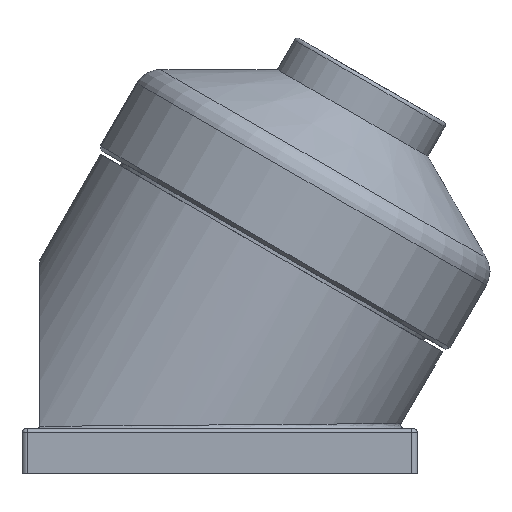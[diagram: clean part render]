
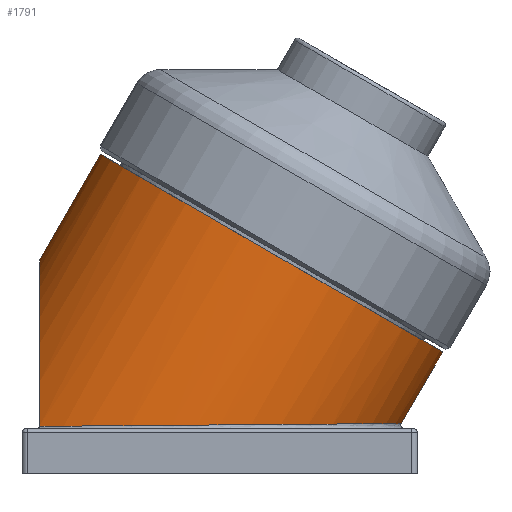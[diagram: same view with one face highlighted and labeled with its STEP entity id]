
A CAD part, left-side view. The second image highlights one B-rep face of the part: STEP entity #1791.
In plain terms, the highlighted cylindrical face has radius 110 mm (diameter 220 mm), a full revolution.
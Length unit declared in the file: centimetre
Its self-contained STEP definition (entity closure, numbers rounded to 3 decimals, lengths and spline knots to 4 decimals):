
#19=ELLIPSE('',#2002,22.,11.);
#23=ELLIPSE('',#2042,12.7598,11.);
#30=B_SPLINE_CURVE_WITH_KNOTS('',3,(#3112,#3113,#3114,#3115,#3116,#3117,
#3118,#3119,#3120,#3121,#3122,#3123,#3124,#3125,#3126,#3127,#3128,#3129),
 .UNSPECIFIED.,.F.,.F.,(4,2,2,2,2,2,2,2,4),(0.8494,1.0617,
1.2741,1.4864,1.6987,1.911,2.1234,
2.3357,2.5481),.UNSPECIFIED.);
#31=B_SPLINE_CURVE_WITH_KNOTS('',3,(#3130,#3131,#3132,#3133,#3134,#3135,
#3136,#3137,#3138,#3139,#3140,#3141,#3142,#3143,#3144,#3145,#3146,#3147,
#3148),.UNSPECIFIED.,.F.,.F.,(4,2,2,2,3,2,2,2,4),(2.5481,2.7604,
2.9728,3.1851,3.3974,3.6098,3.8221,
4.0344,4.2468),.UNSPECIFIED.);
#32=B_SPLINE_CURVE_WITH_KNOTS('',3,(#3250,#3251,#3252,#3253,#3254,#3255),
 .UNSPECIFIED.,.F.,.F.,(4,2,4),(0.5758,0.604,0.6333),
 .UNSPECIFIED.);
#33=B_SPLINE_CURVE_WITH_KNOTS('',3,(#3256,#3257,#3258,#3259,#3260,#3261),
 .UNSPECIFIED.,.F.,.F.,(4,2,4),(0.724,0.7533,0.7815),
 .UNSPECIFIED.);
#240=FACE_BOUND('',#644,.T.);
#241=FACE_BOUND('',#645,.T.);
#301=CYLINDRICAL_SURFACE('',#2041,11.);
#420=FACE_OUTER_BOUND('',#643,.T.);
#643=EDGE_LOOP('',(#1458));
#644=EDGE_LOOP('',(#1459,#1460,#1461,#1462));
#645=EDGE_LOOP('',(#1463,#1464));
#733=CIRCLE('',#1932,11.);
#870=VERTEX_POINT('',#2862);
#920=VERTEX_POINT('',#3064);
#921=VERTEX_POINT('',#3065);
#925=VERTEX_POINT('',#3110);
#926=VERTEX_POINT('',#3111);
#945=VERTEX_POINT('',#3247);
#946=VERTEX_POINT('',#3248);
#1033=EDGE_CURVE('',#870,#870,#733,.T.);
#1088=EDGE_CURVE('',#921,#920,#19,.T.);
#1092=EDGE_CURVE('',#925,#926,#30,.T.);
#1093=EDGE_CURVE('',#926,#925,#31,.T.);
#1126=EDGE_CURVE('',#945,#946,#23,.T.);
#1127=EDGE_CURVE('',#921,#945,#32,.T.);
#1128=EDGE_CURVE('',#946,#920,#33,.T.);
#1458=ORIENTED_EDGE('',*,*,#1033,.T.);
#1459=ORIENTED_EDGE('',*,*,#1126,.F.);
#1460=ORIENTED_EDGE('',*,*,#1127,.F.);
#1461=ORIENTED_EDGE('',*,*,#1088,.T.);
#1462=ORIENTED_EDGE('',*,*,#1128,.F.);
#1463=ORIENTED_EDGE('',*,*,#1092,.T.);
#1464=ORIENTED_EDGE('',*,*,#1093,.T.);
#1791=ADVANCED_FACE('',(#420,#240,#241),#301,.T.);
#1932=AXIS2_PLACEMENT_3D('',#2863,#2324,#2325);
#2002=AXIS2_PLACEMENT_3D('',#3067,#2476,#2477);
#2041=AXIS2_PLACEMENT_3D('',#3246,#2564,#2565);
#2042=AXIS2_PLACEMENT_3D('',#3249,#2566,#2567);
#2324=DIRECTION('center_axis',(0.,0.5,-0.866));
#2325=DIRECTION('ref_axis',(1.,0.,0.));
#2476=DIRECTION('center_axis',(0.,-1.,0.));
#2477=DIRECTION('ref_axis',(0.,0.,
1.));
#2564=DIRECTION('center_axis',(0.,0.5,-0.866));
#2565=DIRECTION('ref_axis',(-1.,0.,0.));
#2566=DIRECTION('center_axis',(0.,-0.008,
-1.));
#2567=DIRECTION('ref_axis',(0.,-1.,0.008));
#2862=CARTESIAN_POINT('',(-11.,0.95,12.2846));
#2863=CARTESIAN_POINT('Origin',(0.,0.95,12.2846));
#3064=CARTESIAN_POINT('',(-8.9655,13.843,2.7));
#3065=CARTESIAN_POINT('',(8.9655,13.843,2.7));
#3067=CARTESIAN_POINT('Origin',(0.,13.843,-10.0468));
#3110=CARTESIAN_POINT('',(11.,2.3819,9.8044));
#3111=CARTESIAN_POINT('',(11.,1.8181,10.781));
#3112=CARTESIAN_POINT('Ctrl Pts',(11.,2.3819,9.8044));
#3113=CARTESIAN_POINT('Ctrl Pts',(11.,2.3206,9.769));
#3114=CARTESIAN_POINT('Ctrl Pts',(10.9992,2.2481,9.7435));
#3115=CARTESIAN_POINT('Ctrl Pts',(10.9965,2.0991,9.724));
#3116=CARTESIAN_POINT('Ctrl Pts',(10.9946,2.0226,9.7299));
#3117=CARTESIAN_POINT('Ctrl Pts',(10.991,1.8859,9.7666));
#3118=CARTESIAN_POINT('Ctrl Pts',(10.989,1.8167,9.7999));
#3119=CARTESIAN_POINT('Ctrl Pts',(10.9863,1.6975,9.8914));
#3120=CARTESIAN_POINT('Ctrl Pts',(10.9856,1.6475,9.9497));
#3121=CARTESIAN_POINT('Ctrl Pts',(10.9856,1.5767,10.0723));
#3122=CARTESIAN_POINT('Ctrl Pts',(10.9863,1.5512,10.1447));
#3123=CARTESIAN_POINT('Ctrl Pts',(10.989,1.5315,10.2937));
#3124=CARTESIAN_POINT('Ctrl Pts',(10.991,1.5374,10.3703));
#3125=CARTESIAN_POINT('Ctrl Pts',(10.9946,1.5739,10.507));
#3126=CARTESIAN_POINT('Ctrl Pts',(10.9965,1.6071,10.5763));
#3127=CARTESIAN_POINT('Ctrl Pts',(10.9992,1.6985,10.6956));
#3128=CARTESIAN_POINT('Ctrl Pts',(11.,1.7568,10.7456));
#3129=CARTESIAN_POINT('Ctrl Pts',(11.,1.8181,10.781));
#3130=CARTESIAN_POINT('Ctrl Pts',(11.,1.8181,10.781));
#3131=CARTESIAN_POINT('Ctrl Pts',(11.,1.8794,10.8164));
#3132=CARTESIAN_POINT('Ctrl Pts',(10.9992,1.9519,10.8418));
#3133=CARTESIAN_POINT('Ctrl Pts',(10.9965,2.1009,10.8614));
#3134=CARTESIAN_POINT('Ctrl Pts',(10.9946,2.1774,10.8555));
#3135=CARTESIAN_POINT('Ctrl Pts',(10.991,2.3141,10.8188));
#3136=CARTESIAN_POINT('Ctrl Pts',(10.989,2.3833,10.7855));
#3137=CARTESIAN_POINT('Ctrl Pts',(10.9863,2.5025,10.694));
#3138=CARTESIAN_POINT('Ctrl Pts',(10.9856,2.5525,10.6357));
#3139=CARTESIAN_POINT('Ctrl Pts',(10.9856,2.5879,10.5744));
#3140=CARTESIAN_POINT('Ctrl Pts',(10.9856,2.6233,10.5131));
#3141=CARTESIAN_POINT('Ctrl Pts',(10.9863,2.6488,10.4406));
#3142=CARTESIAN_POINT('Ctrl Pts',(10.989,2.6685,10.2916));
#3143=CARTESIAN_POINT('Ctrl Pts',(10.991,2.6626,10.2151));
#3144=CARTESIAN_POINT('Ctrl Pts',(10.9946,2.6261,10.0784));
#3145=CARTESIAN_POINT('Ctrl Pts',(10.9965,2.5929,10.0091));
#3146=CARTESIAN_POINT('Ctrl Pts',(10.9992,2.5015,9.8898));
#3147=CARTESIAN_POINT('Ctrl Pts',(11.,2.4432,9.8398));
#3148=CARTESIAN_POINT('Ctrl Pts',(11.,2.3819,9.8044));
#3246=CARTESIAN_POINT('Origin',(0.,4.4965,6.1418));
#3247=CARTESIAN_POINT('',(8.9807,13.8515,2.6423));
#3248=CARTESIAN_POINT('',(-8.9807,13.8515,2.6423));
#3249=CARTESIAN_POINT('Origin',(0.,6.4836,2.7));
#3250=CARTESIAN_POINT('Ctrl Pts',(8.9655,13.843,2.7));
#3251=CARTESIAN_POINT('Ctrl Pts',(8.9688,13.843,2.6907));
#3252=CARTESIAN_POINT('Ctrl Pts',(8.9718,13.8437,2.6812));
#3253=CARTESIAN_POINT('Ctrl Pts',(8.9769,13.8465,2.6618));
#3254=CARTESIAN_POINT('Ctrl Pts',(8.9791,13.8486,2.6519));
#3255=CARTESIAN_POINT('Ctrl Pts',(8.9807,13.8515,2.6423));
#3256=CARTESIAN_POINT('Ctrl Pts',(-8.9807,13.8515,2.6423));
#3257=CARTESIAN_POINT('Ctrl Pts',(-8.9791,13.8486,2.6519));
#3258=CARTESIAN_POINT('Ctrl Pts',(-8.9769,13.8465,2.6618));
#3259=CARTESIAN_POINT('Ctrl Pts',(-8.9718,13.8437,2.6812));
#3260=CARTESIAN_POINT('Ctrl Pts',(-8.9688,13.843,2.6907));
#3261=CARTESIAN_POINT('Ctrl Pts',(-8.9655,13.843,2.7));
